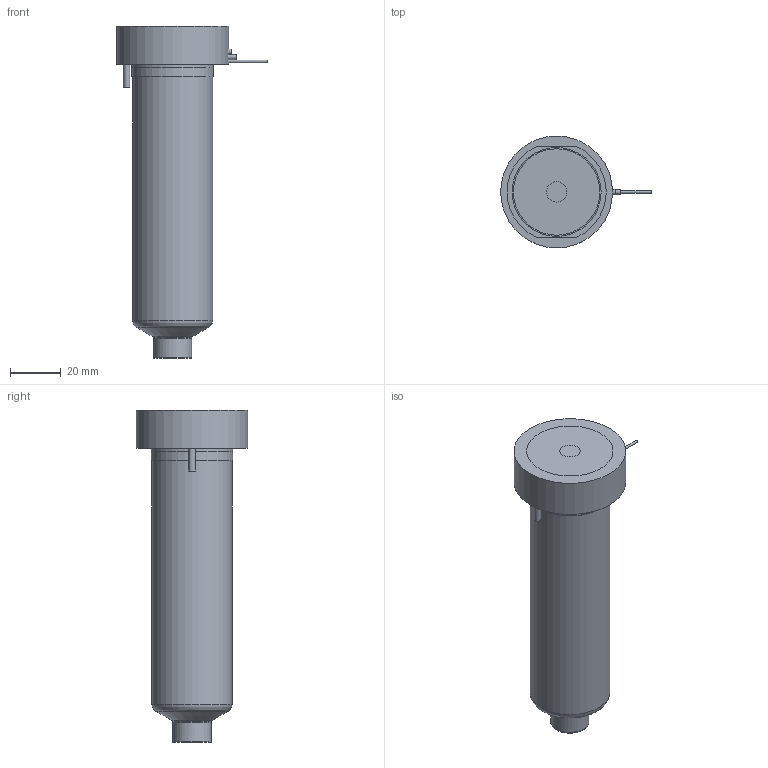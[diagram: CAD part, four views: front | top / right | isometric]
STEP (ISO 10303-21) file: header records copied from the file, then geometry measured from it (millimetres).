
FILE_DESCRIPTION(/* description */ (''),/* implementation_level */ '2;1');
FILE_NAME(/* name */ 'MXTBE19115_250C_a',/* time_stamp */ '2016-03-02T16:45:28+13:00',/* author */ (''),/* organization */ (''),/* preprocessor_version */ 'ST-DEVELOPER v9',/* originating_system */ 'UGS - NX 4.0',/* authorisation */ '');
FILE_SCHEMA (('CONFIG_CONTROL_DESIGN'));
Length unit declared in the file: millimetre
Products named in the file (1): matt3462e18z
Bounding box: 59.25 x 44 x 130.58 mm (x, y, z)
Volume: 177901 mm3; surface area: 29532.6 mm2
Topology: 2 solids, 2 shells, 66 faces, 141 edges, 92 vertices
Faces by surface type: plane 28, cylinder 24, torus 7, cone 6, bspline 1
Full cylindrical faces by diameter (mm): 1 x2, 1.2 x1, 2 x2, 2.5 x1, 8 x1, 14.61 x1, 15.01 x2, 18.3 x1, 25.4 x1, 31.5 x1, 32 x2, 44 x1
Entity records: 1965 total; most frequent: CARTESIAN_POINT 591, DIRECTION 282, ORIENTED_EDGE 208, AXIS2_PLACEMENT_3D 127, EDGE_LOOP 108, EDGE_CURVE 104, VERTEX_POINT 82, ADVANCED_FACE 66
